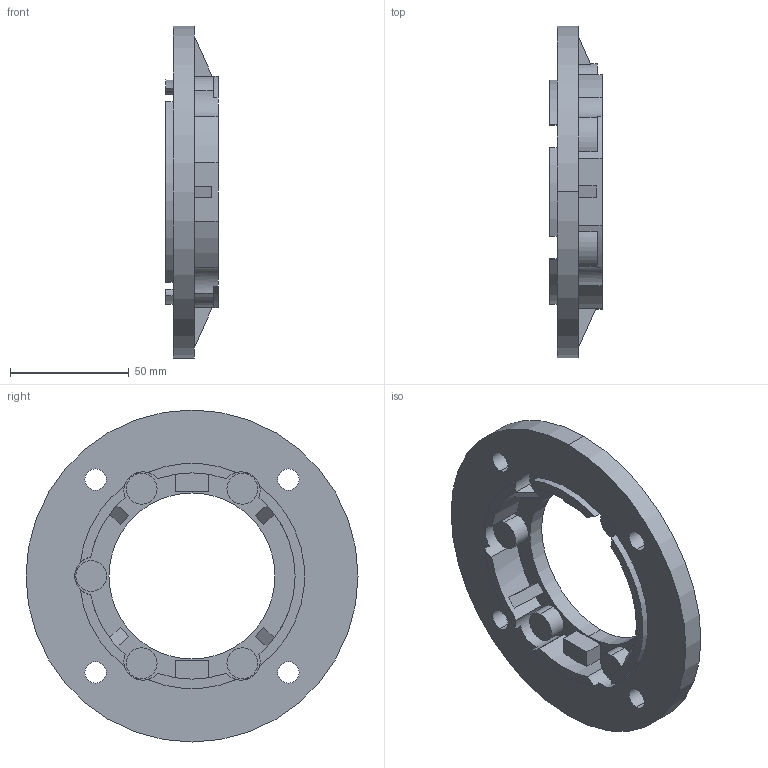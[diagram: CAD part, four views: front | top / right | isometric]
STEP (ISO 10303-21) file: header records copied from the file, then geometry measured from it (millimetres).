
FILE_DESCRIPTION(/* description */ (''),/* implementation_level */ '2;1');
FILE_NAME(/* name */ '1_FLANGIA (CAMPANA) LATERALE FC H032',/* time_stamp */ '2025-10-31T14:30:25+01:00',/* author */ (''),/* organization */ (''),/* preprocessor_version */ 'ST-DEVELOPER v19.2',/* originating_system */ 'Rhino 8.23',/* authorisation */ '');
FILE_SCHEMA (('CONFIG_CONTROL_DESIGN'));
Length unit declared in the file: millimetre
Products named in the file (2): Document; FU032FC-3
Bounding box: 22 x 140 x 140 mm (x, y, z)
Volume: 125991.7 mm3; surface area: 39861.7 mm2
Topology: 1 solids, 1 shells, 109 faces, 300 edges, 200 vertices
Faces by surface type: plane 55, cylinder 54
Entity records: 4743 total; most frequent: CARTESIAN_POINT 1063, ORIENTED_EDGE 600, DIRECTION 387, EDGE_CURVE 300, AXIS2_PLACEMENT_3D 248, VERTEX_POINT 200, B_SPLINE_CURVE_WITH_KNOTS 160, TRIMMED_CURVE 135
